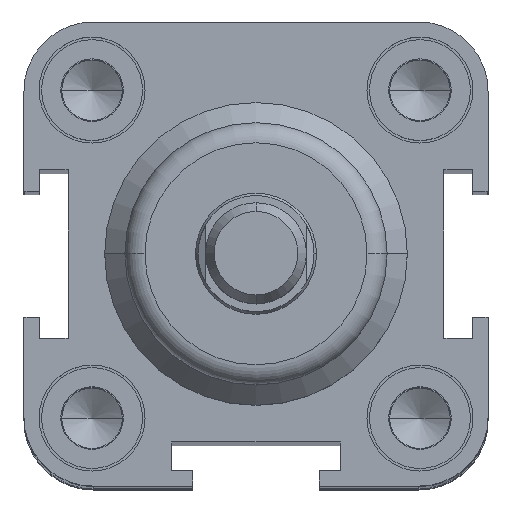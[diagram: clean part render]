
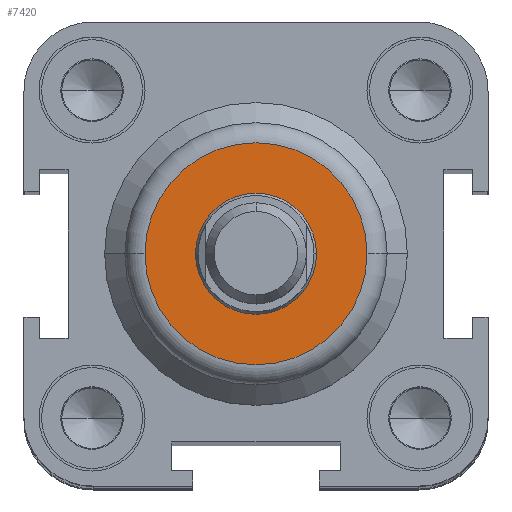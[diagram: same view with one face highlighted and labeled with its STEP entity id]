
A CAD part, top view. The second image highlights one B-rep face of the part: STEP entity #7420.
In plain terms, the highlighted planar face has unit normal (0, 0, 1).
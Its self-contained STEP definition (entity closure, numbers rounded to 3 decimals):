
#1472=CARTESIAN_POINT('',(-11.,0.0,125.5));
#1473=VERTEX_POINT('',#1472);
#1481=CARTESIAN_POINT('',(11.,0.,125.5));
#1482=VERTEX_POINT('',#1481);
#1483=CARTESIAN_POINT('',(0.0,0.0,125.5));
#1484=DIRECTION('',(0.0,0.0,-1.0));
#1485=DIRECTION('',(-1.0,0.0,0.0));
#1486=AXIS2_PLACEMENT_3D('',#1483,#1484,#1485);
#1487=CIRCLE('',#1486,11.);
#1488=EDGE_CURVE('',#1473,#1482,#1487,.T.);
#1593=CARTESIAN_POINT('',(6.,0.0,125.5));
#1594=VERTEX_POINT('',#1593);
#1610=CARTESIAN_POINT('',(-6.,0.,125.5));
#1611=VERTEX_POINT('',#1610);
#1618=CARTESIAN_POINT('',(0.0,0.0,125.5));
#1619=DIRECTION('',(0.0,0.0,-1.0));
#1620=DIRECTION('',(1.0,0.0,0.0));
#1621=AXIS2_PLACEMENT_3D('',#1618,#1619,#1620);
#1622=CIRCLE('',#1621,6.);
#1623=EDGE_CURVE('',#1594,#1611,#1622,.T.);
#7347=CARTESIAN_POINT('',(0.0,0.0,125.5));
#7348=DIRECTION('',(0.0,0.0,-1.0));
#7349=DIRECTION('',(1.0,0.0,0.0));
#7350=AXIS2_PLACEMENT_3D('',#7347,#7348,#7349);
#7351=CIRCLE('',#7350,6.);
#7352=EDGE_CURVE('',#1611,#1594,#7351,.T.);
#7401=CARTESIAN_POINT('',(-5.5,0.0,125.5));
#7402=DIRECTION('',(0.0,0.0,1.0));
#7403=DIRECTION('',(1.0,0.0,0.0));
#7404=AXIS2_PLACEMENT_3D('',#7401,#7402,#7403);
#7405=PLANE('',#7404);
#7406=ORIENTED_EDGE('',*,*,#1488,.F.);
#7407=CARTESIAN_POINT('',(0.0,0.0,125.5));
#7408=DIRECTION('',(0.0,0.0,-1.0));
#7409=DIRECTION('',(-1.0,0.0,0.0));
#7410=AXIS2_PLACEMENT_3D('',#7407,#7408,#7409);
#7411=CIRCLE('',#7410,11.);
#7412=EDGE_CURVE('',#1482,#1473,#7411,.T.);
#7413=ORIENTED_EDGE('',*,*,#7412,.F.);
#7414=EDGE_LOOP('',(#7406,#7413));
#7415=FACE_OUTER_BOUND('',#7414,.T.);
#7416=ORIENTED_EDGE('',*,*,#1623,.T.);
#7417=ORIENTED_EDGE('',*,*,#7352,.T.);
#7418=EDGE_LOOP('',(#7416,#7417));
#7419=FACE_BOUND('',#7418,.T.);
#7420=ADVANCED_FACE('',(#7415,#7419),#7405,.T.);
